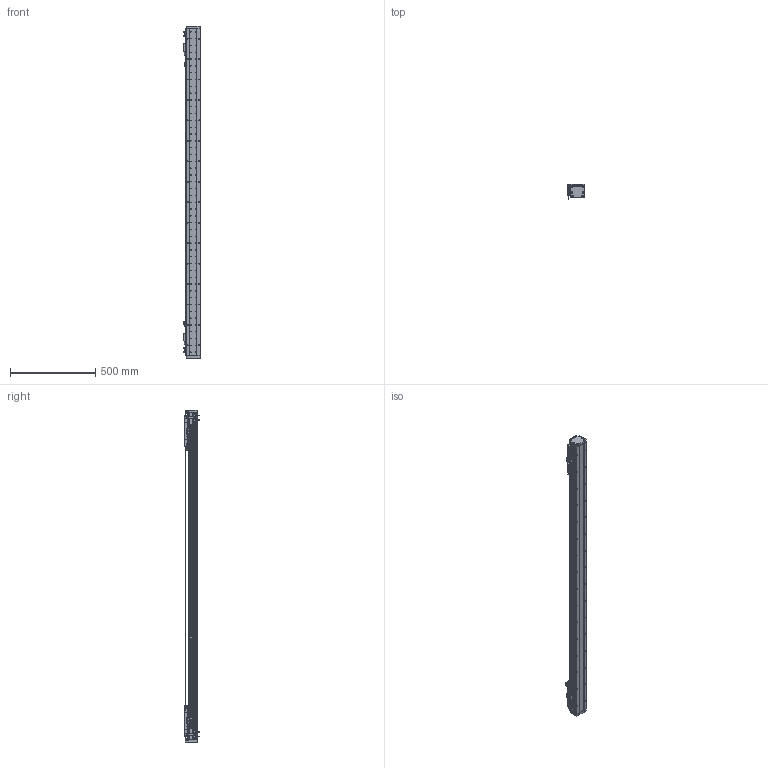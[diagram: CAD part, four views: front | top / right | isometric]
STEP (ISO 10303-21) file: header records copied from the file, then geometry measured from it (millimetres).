
FILE_DESCRIPTION (( 'STEP AP203' ), '1' );
FILE_NAME ('DA-A82-2-B2-T1500-C010-0.2 眻盄萇儂.STEP', '2025-08-13T02:36:31', ( '' ), ( '' ), 'SwSTEP 2.0', 'SolidWorks 2019', '' );
FILE_SCHEMA (( 'CONFIG_CONTROL_DESIGN' ));
Length unit declared in the file: millimetre
Products named in the file (29): 复件 六角薄螺母 M3^DA-A82-B2-T-C010-0.2-N 直线电机; 复件 DKW-GJ-XJ-00 防撞橡胶^DA-A82-B2-T-C010-0.2-N 直线电机; 复件 复件 17517-0000-004-00  钢带压块^DA-A82-B2-T-C010-0.2-N 直线电机(默认); DA-A60-GYP-DMT-00 光电感应片^DA-A82-B2-T-C010-0.2-N 直线电机(默认); AU82-M 幗紩賑怢; 复件 DA82-GYP-ZJ-00 中间光电感应片^DA-A82-B2-T-C010-0.2-N 直线电机; DA-A82-2-B2-T1500-C010-0.2 眻盄萇儂; 复件 纯铜油杯 6x6mm^AU82-M 滚珠滑台; 复件 复件 复件 DA82 钢带盖板^DA-A82-B2-T-C010-0.2-N 直线电机(默认); 葩璃 DMT-010 1米m 0.2M^DA-A82-B2-T-C010-0.2-N 眻盄萇儂; 复件 复件 17517-0000-002-00 端板^DA-A82-B2-T-C010-0.2-N 直线电机; 复件 复件 17517-0000-003-00 钢带拉块^DA-A82-B2-T-C010-0.2-N 直线电机; 复件 DA95-B2-GT-00 滑块钢轨^AU82-M-00 一体化滑动台板; AU82-M-00 珨极趙賑雄怢啣; IU-AU82-L 菁釱絳寢; AU82-M-00 珨极趙賑雄怢啣-1; AU82-M 幗紩賑怢-1; AU82-HT-M-00 賑雄怢啣; 复件 XD-U-02  磁栅尺^DA-A82-B2-T-C010-0.2-N 直线电机; 复件 DA60-DMT-DTJ-00 读数头支架^DA-A82-B2-T-C010-0.2-N 直线电机; 复件 DA82-GDZ-ZJ-00 中间光电固定座^DA-A82-B2-T-C010-0.2-N 直线电机; 葩璃 PM-T45^DA-A82-B2-T-C010-0.2-N 眻盄萇儂; IU-AU82-L-00 菁釱(L1920); 葩璃 BKM01-W040-TRL^DA-A82-B2-T-C010-0.2-N 眻盄萇儂; 复件 BKM02-W040-C1-TP-DA-3.0 直线电机动子^DA-A82-B2-T-C010-0.2-N 直线电机; 葩璃 DA82-B2-DP-00 結え^AU82-M 幗紩賑怢; 复件 复件 DA82-XJ-00 缓冲橡胶^DA-A82-B2-T-C010-0.2-N 直线电机; 复件 DA95-GT-T-00 底座钢轨^IU-AU82-L 底座导轨; 葩璃 PM-L25^DA-A82-B2-T-C010-0.2-N 眻盄萇儂
Assembly tree (61 placements, depth 4):
  DA-A82-2-B2-T1500-C010-0.2 眻盄萇儂
    IU-AU82-L 菁釱絳寢
      IU-AU82-L-00 菁釱(L1920)
      复件 DA95-GT-T-00 底座钢轨^IU-AU82-L 底座导轨  x2
    AU82-M 幗紩賑怢
      AU82-M-00 珨极趙賑雄怢啣
        AU82-HT-M-00 賑雄怢啣
        复件 DA95-B2-GT-00 滑块钢轨^AU82-M-00 一体化滑动台板  x4
      葩璃 DA82-B2-DP-00 結え^AU82-M 幗紩賑怢  x2
      复件 纯铜油杯 6x6mm^AU82-M 滚珠滑台  x2
    AU82-M 幗紩賑怢-1
      AU82-M-00 珨极趙賑雄怢啣-1
        AU82-HT-M-00 賑雄怢啣
        复件 DA95-B2-GT-00 滑块钢轨^AU82-M-00 一体化滑动台板  x4
      葩璃 DA82-B2-DP-00 結え^AU82-M 幗紩賑怢  x2
      复件 纯铜油杯 6x6mm^AU82-M 滚珠滑台  x2
    复件 BKM02-W040-C1-TP-DA-3.0 直线电机动子^DA-A82-B2-T-C010-0.2-N 直线电机  x2
    复件 DA60-DMT-DTJ-00 读数头支架^DA-A82-B2-T-C010-0.2-N 直线电机  x2
    葩璃 DMT-010 1米m 0.2M^DA-A82-B2-T-C010-0.2-N 眻盄萇儂  x2
    DA-A60-GYP-DMT-00 光电感应片^DA-A82-B2-T-C010-0.2-N 直线电机(默认)  x2
    复件 DA82-GDZ-ZJ-00 中间光电固定座^DA-A82-B2-T-C010-0.2-N 直线电机
    葩璃 PM-L25^DA-A82-B2-T-C010-0.2-N 眻盄萇儂
    复件 DA82-GYP-ZJ-00 中间光电感应片^DA-A82-B2-T-C010-0.2-N 直线电机
    复件 DKW-GJ-XJ-00 防撞橡胶^DA-A82-B2-T-C010-0.2-N 直线电机
    复件 复件 17517-0000-003-00 钢带拉块^DA-A82-B2-T-C010-0.2-N 直线电机  x2
    复件 复件 DA82-XJ-00 缓冲橡胶^DA-A82-B2-T-C010-0.2-N 直线电机  x2
    复件 复件 17517-0000-004-00  钢带压块^DA-A82-B2-T-C010-0.2-N 直线电机(默认)  x2
    复件 复件 17517-0000-002-00 端板^DA-A82-B2-T-C010-0.2-N 直线电机  x2
    复件 复件 复件 DA82 钢带盖板^DA-A82-B2-T-C010-0.2-N 直线电机(默认)
    葩璃 BKM01-W040-TRL^DA-A82-B2-T-C010-0.2-N 眻盄萇儂
    葩璃 PM-T45^DA-A82-B2-T-C010-0.2-N 眻盄萇儂  x4
    复件 XD-U-02  磁栅尺^DA-A82-B2-T-C010-0.2-N 直线电机
    复件 六角薄螺母 M3^DA-A82-B2-T-C010-0.2-N 直线电机  x8
Bounding box: 98.94 x 87.2 x 1948 mm (x, y, z)
Volume: 5971746 mm3; surface area: 1786219.3 mm2
Topology: 70 solids, 118 shells, 3525 faces, 9173 edges, 5718 vertices
Faces by surface type: cylinder 1659, plane 1374, cone 456, bspline 16, torus 16, sphere 4
Entity records: 76055 total; most frequent: CARTESIAN_POINT 17133, DIRECTION 11787, ORIENTED_EDGE 11128, EDGE_CURVE 5564, AXIS2_PLACEMENT_3D 4517, VERTEX_POINT 3622, EDGE_LOOP 2838, LINE 2753
